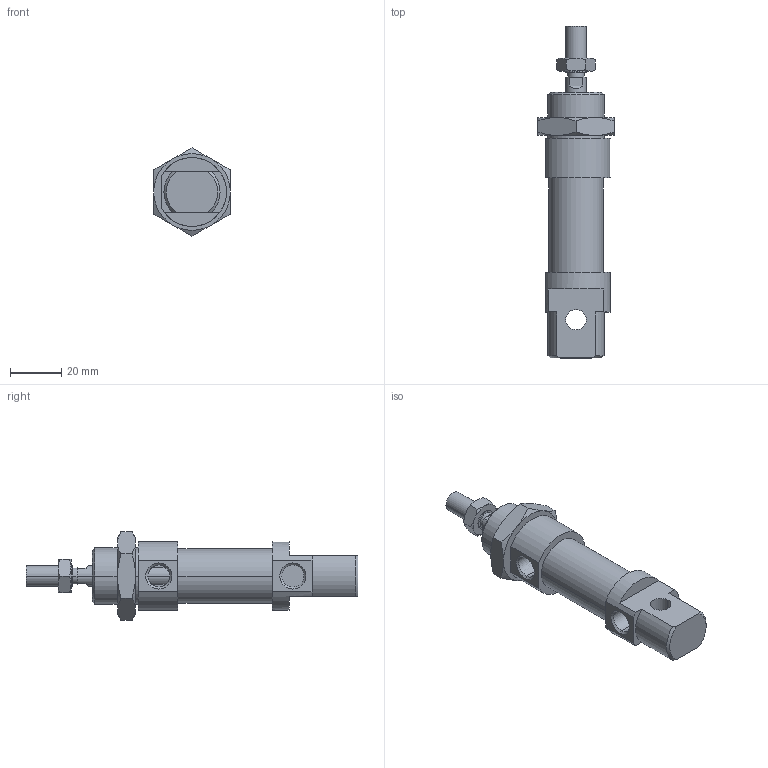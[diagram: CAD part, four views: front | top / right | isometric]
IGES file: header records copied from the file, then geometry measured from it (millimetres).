
Global section: file name: No Iges File Name specified; native system: Autodesk Inventor 2010; preprocessor: AutoDesk Inventor Iges Exporter R2010; author: rivolro1; date: 20090604.093242; units: millimetre
Bounding box: 30 x 130 x 34.64 mm (x, y, z)
Volume: 44356.7 mm3; surface area: 14531.4 mm2
Topology: 4 solids, 4 shells, 110 faces, 249 edges, 152 vertices
Faces by surface type: plane 41, cone 28, bspline 21, cylinder 14, revolution 6
